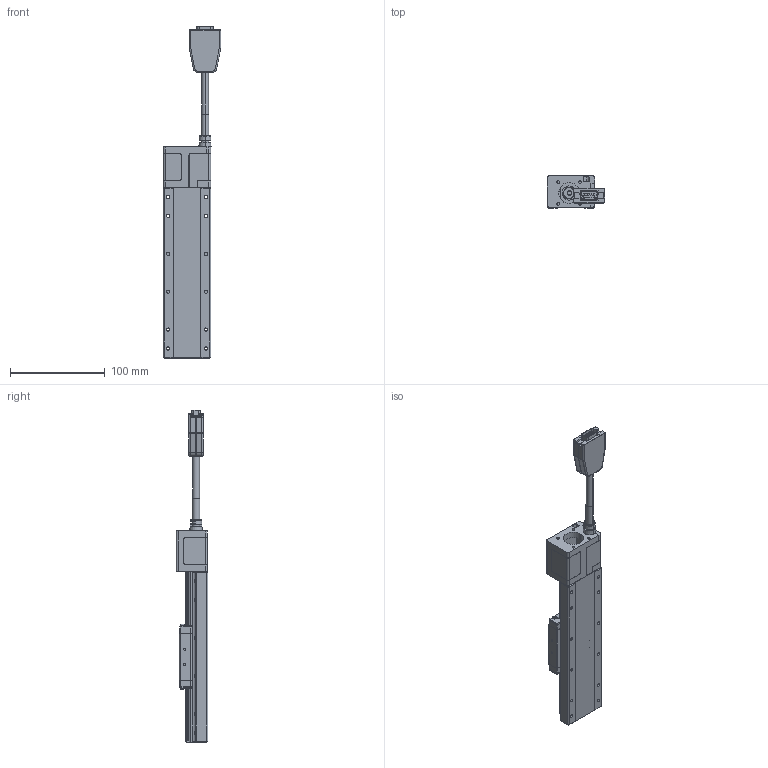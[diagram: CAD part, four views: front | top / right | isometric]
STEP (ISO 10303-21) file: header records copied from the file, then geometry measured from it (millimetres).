
FILE_DESCRIPTION (( 'STEP AP203' ), '1' );
FILE_NAME ('CXN50100-S2?N(28框無馬達).', '2024-01-05T02:22:40', ( '' ), ( '' ), 'SwSTEP 2.0', 'SolidWorks 2019', '' );
FILE_SCHEMA (( 'CONFIG_CONTROL_DESIGN' ));
Length unit declared in the file: millimetre
Products named in the file (3): Group2^CXN50100-S2?N(28框無馬達)_defeature_GMT; CXN50100-S2?N(28框無馬達); Group1^CXN50100-S2?N(28框無馬達)_defeature_GMT
Assembly tree (2 placements, depth 2):
  CXN50100-S2?N(28框無馬達)
    Group1^CXN50100-S2?N(28框無馬達)_defeature_GMT
    Group2^CXN50100-S2?N(28框無馬達)_defeature_GMT
Bounding box: 60.5 x 33.5 x 350.6 mm (x, y, z)
Volume: 31130.7 mm3; surface area: 91222.3 mm2
Topology: 3 solids, 10 shells, 3214 faces, 8181 edges, 4889 vertices
Faces by surface type: plane 1438, cylinder 963, bspline 290, torus 208, sphere 160, cone 155
Entity records: 106042 total; most frequent: CARTESIAN_POINT 30190, ORIENTED_EDGE 15950, DIRECTION 15795, EDGE_CURVE 7975, AXIS2_PLACEMENT_3D 5696, VERTEX_POINT 4857, LINE 4403, VECTOR 4403
